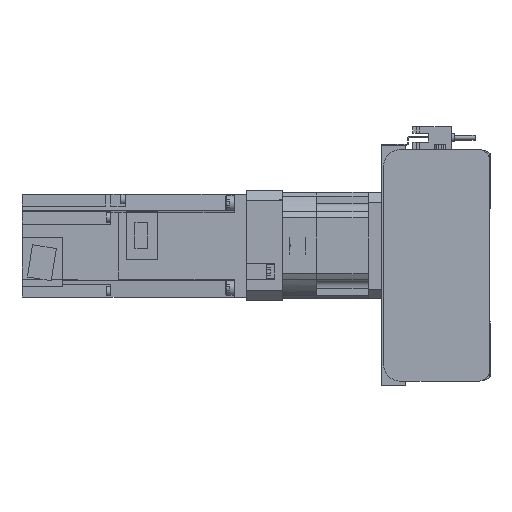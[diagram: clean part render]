
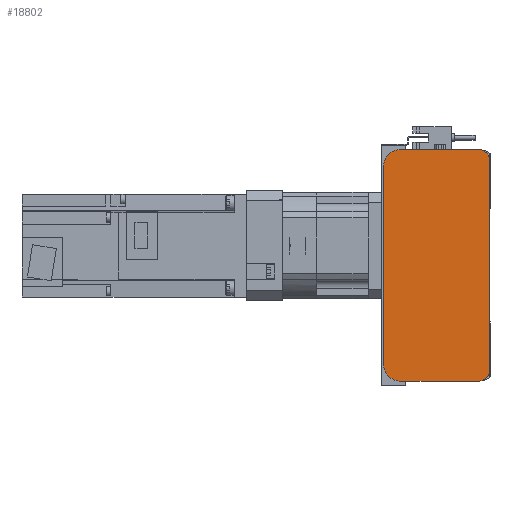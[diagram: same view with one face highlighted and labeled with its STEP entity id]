
A CAD part, left-side view. The second image highlights one B-rep face of the part: STEP entity #18802.
In plain terms, the highlighted planar face has unit normal (-1, 0, 0).
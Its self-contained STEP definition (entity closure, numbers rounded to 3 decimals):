
#1176=CIRCLE('',#20597,5.);
#1177=CIRCLE('',#20600,5.);
#1178=CIRCLE('',#20603,10.);
#1179=CIRCLE('',#20606,10.);
#5641=ORIENTED_EDGE('',*,*,#8493,.F.);
#5642=ORIENTED_EDGE('',*,*,#8650,.F.);
#5643=ORIENTED_EDGE('',*,*,#8642,.F.);
#5644=ORIENTED_EDGE('',*,*,#8640,.F.);
#5645=ORIENTED_EDGE('',*,*,#8287,.F.);
#5646=ORIENTED_EDGE('',*,*,#8639,.F.);
#5647=ORIENTED_EDGE('',*,*,#8637,.F.);
#5648=ORIENTED_EDGE('',*,*,#8635,.F.);
#5649=ORIENTED_EDGE('',*,*,#8633,.F.);
#5650=ORIENTED_EDGE('',*,*,#8631,.F.);
#8287=EDGE_CURVE('',#10294,#10295,#11966,.T.);
#8493=EDGE_CURVE('',#10395,#10396,#12109,.T.);
#8631=EDGE_CURVE('',#10396,#10479,#12238,.T.);
#8633=EDGE_CURVE('',#10479,#10480,#1176,.T.);
#8635=EDGE_CURVE('',#10480,#10481,#12241,.T.);
#8637=EDGE_CURVE('',#10481,#10482,#1177,.T.);
#8639=EDGE_CURVE('',#10482,#10294,#12244,.T.);
#8640=EDGE_CURVE('',#10295,#10483,#1178,.T.);
#8642=EDGE_CURVE('',#10483,#10484,#12246,.T.);
#8650=EDGE_CURVE('',#10484,#10395,#1179,.T.);
#10294=VERTEX_POINT('',#30792);
#10295=VERTEX_POINT('',#30794);
#10395=VERTEX_POINT('',#31175);
#10396=VERTEX_POINT('',#31177);
#10479=VERTEX_POINT('',#31454);
#10480=VERTEX_POINT('',#31458);
#10481=VERTEX_POINT('',#31462);
#10482=VERTEX_POINT('',#31466);
#10483=VERTEX_POINT('',#31472);
#10484=VERTEX_POINT('',#31476);
#11966=LINE('',#30793,#13669);
#12109=LINE('',#31176,#13812);
#12238=LINE('',#31453,#13941);
#12241=LINE('',#31461,#13944);
#12244=LINE('',#31469,#13947);
#12246=LINE('',#31475,#13949);
#13669=VECTOR('',#24948,1000.);
#13812=VECTOR('',#25369,1000.);
#13941=VECTOR('',#25628,1000.);
#13944=VECTOR('',#25637,1000.);
#13947=VECTOR('',#25646,1000.);
#13949=VECTOR('',#25654,1000.);
#15343=EDGE_LOOP('',(#5641,#5642,#5643,#5644,#5645,#5646,#5647,#5648,#5649,
#5650));
#16932=FACE_BOUND('',#15343,.T.);
#17799=PLANE('',#20607);
#18802=ADVANCED_FACE('',(#16932),#17799,.F.);
#20597=AXIS2_PLACEMENT_3D('',#31457,#25632,#25633);
#20600=AXIS2_PLACEMENT_3D('',#31465,#25641,#25642);
#20603=AXIS2_PLACEMENT_3D('',#31471,#25649,#25650);
#20606=AXIS2_PLACEMENT_3D('',#31489,#25664,#25665);
#20607=AXIS2_PLACEMENT_3D('',#31490,#25666,#25667);
#24948=DIRECTION('',(0.,1.,0.));
#25369=DIRECTION('',(0.,-1.,0.));
#25628=DIRECTION('',(0.,-0.942,-0.336));
#25632=DIRECTION('',(1.,0.,0.));
#25633=DIRECTION('',(0.,0.,-1.));
#25637=DIRECTION('',(0.,0.,-1.));
#25641=DIRECTION('',(1.,0.,0.));
#25642=DIRECTION('',(0.,0.,-1.));
#25646=DIRECTION('',(0.,0.942,-0.336));
#25649=DIRECTION('',(1.,0.,0.));
#25650=DIRECTION('',(0.,0.,-1.));
#25654=DIRECTION('',(0.,0.,1.));
#25664=DIRECTION('',(1.,0.,0.));
#25665=DIRECTION('',(0.,0.,-1.));
#25666=DIRECTION('',(1.,0.,0.));
#25667=DIRECTION('',(0.,0.,-1.));
#30792=CARTESIAN_POINT('',(-10.,6.,-67.5));
#30793=CARTESIAN_POINT('',(-10.,6.,-67.5));
#30794=CARTESIAN_POINT('',(-10.,52.,-67.5));
#31175=CARTESIAN_POINT('',(-10.,52.,67.5));
#31176=CARTESIAN_POINT('',(-10.,52.,67.5));
#31177=CARTESIAN_POINT('',(-10.,6.,67.5));
#31453=CARTESIAN_POINT('',(-10.,6.,67.5));
#31454=CARTESIAN_POINT('',(-10.,3.822,66.724));
#31457=CARTESIAN_POINT('',(-10.,5.5,62.014));
#31458=CARTESIAN_POINT('',(-10.,0.5,62.014));
#31461=CARTESIAN_POINT('',(-10.,0.5,62.014));
#31462=CARTESIAN_POINT('',(-10.,0.5,-62.014));
#31465=CARTESIAN_POINT('',(-10.,5.5,-62.014));
#31466=CARTESIAN_POINT('',(-10.,3.822,-66.724));
#31469=CARTESIAN_POINT('',(-10.,3.822,-66.724));
#31471=CARTESIAN_POINT('',(-10.,52.,-57.5));
#31472=CARTESIAN_POINT('',(-10.,62.,-57.5));
#31475=CARTESIAN_POINT('',(-10.,62.,-57.5));
#31476=CARTESIAN_POINT('',(-10.,62.,57.5));
#31489=CARTESIAN_POINT('',(-10.,52.,57.5));
#31490=CARTESIAN_POINT('',(-10.,5.5,62.014));
